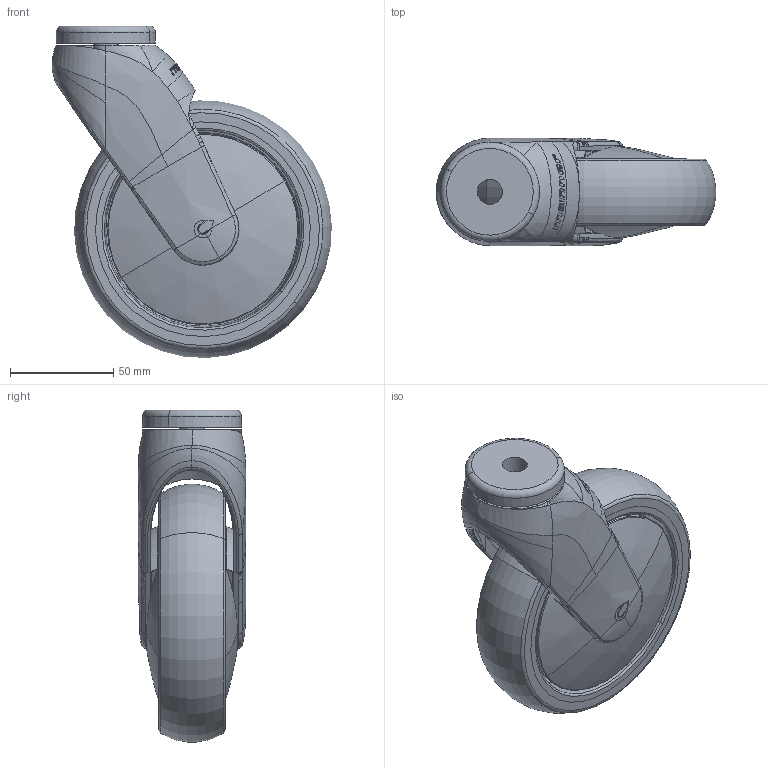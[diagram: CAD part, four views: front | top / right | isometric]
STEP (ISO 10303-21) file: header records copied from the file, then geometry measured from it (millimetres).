
FILE_DESCRIPTION (( 'STEP AP203' ), '1' );
FILE_NAME ('301669.STEP', '2010-03-18T05:40:22', ( ' ' ), ( ' ' ), 'SwSTEP 2.0', 'SolidWorks 2007', '' );
FILE_SCHEMA (( 'CONFIG_CONTROL_DESIGN' ));
Length unit declared in the file: millimetre
Products named in the file (1): 301669
Bounding box: 135.39 x 52.08 x 160.77 mm (x, y, z)
Surface area: 92267.6 mm2 (no closed solid volume)
Topology: 0 solids, 13 shells, 352 faces, 1288 edges, 892 vertices
Faces by surface type: bspline 200, plane 54, torus 41, cylinder 31, cone 20, sphere 6
Entity records: 92626 total; most frequent: CARTESIAN_POINT 84300, ORIENTED_EDGE 2132, EDGE_CURVE 1283, VERTEX_POINT 892, DIRECTION 867, B_SPLINE_CURVE_WITH_KNOTS 854, EDGE_LOOP 379, AXIS2_PLACEMENT_3D 368
